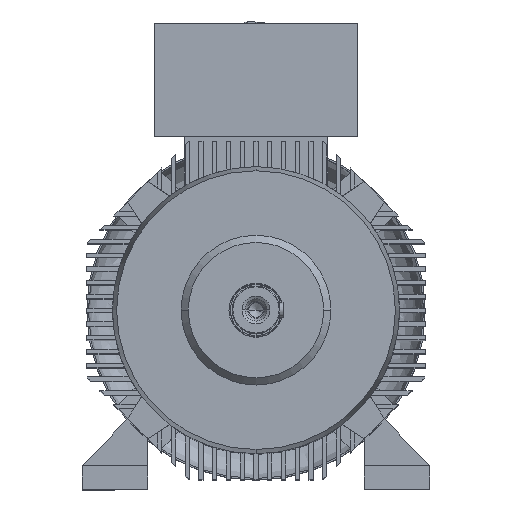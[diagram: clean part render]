
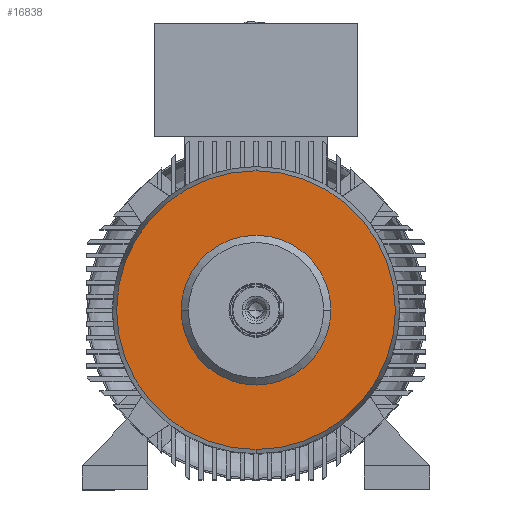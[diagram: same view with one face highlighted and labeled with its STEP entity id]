
A CAD part, top view. The second image highlights one B-rep face of the part: STEP entity #16838.
In plain terms, the highlighted planar face has unit normal (0, 0, 1).
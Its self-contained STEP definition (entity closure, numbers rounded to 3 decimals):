
#240 = CARTESIAN_POINT ( 'NONE',  ( 0., 0., 293.5 ) ) ;
#504 = CIRCLE ( 'NONE', #5552, 175.013 ) ;
#1027 = CIRCLE ( 'NONE', #10749, 94. ) ;
#1393 = VERTEX_POINT ( 'NONE', #9008 ) ;
#3254 = CIRCLE ( 'NONE', #24674, 94. ) ;
#5171 = CARTESIAN_POINT ( 'NONE',  ( 0., 0., 293.5 ) ) ;
#5314 = PLANE ( 'NONE',  #7231 ) ;
#5552 = AXIS2_PLACEMENT_3D ( 'NONE', #5171, #15356, #7384 ) ;
#6001 = ORIENTED_EDGE ( 'NONE', *, *, #16561, .T. ) ;
#6086 = CARTESIAN_POINT ( 'NONE',  ( -94., 0., 293.5 ) ) ;
#7231 = AXIS2_PLACEMENT_3D ( 'NONE', #23955, #7364, #21641 ) ;
#7364 = DIRECTION ( 'NONE',  ( 0., 0., -1. ) ) ;
#7384 = DIRECTION ( 'NONE',  ( 0., -1., 0. ) ) ;
#8930 = VERTEX_POINT ( 'NONE', #6086 ) ;
#9008 = CARTESIAN_POINT ( 'NONE',  ( 94., 0., 293.5 ) ) ;
#9928 = EDGE_CURVE ( 'NONE', #12777, #21825, #504, .T. ) ;
#10034 = DIRECTION ( 'NONE',  ( 1., 0., 0. ) ) ;
#10572 = EDGE_LOOP ( 'NONE', ( #12650, #6001 ) ) ;
#10749 = AXIS2_PLACEMENT_3D ( 'NONE', #15645, #18219, #10034 ) ;
#11328 = CIRCLE ( 'NONE', #13903, 175.013 ) ;
#11696 = EDGE_CURVE ( 'NONE', #1393, #8930, #1027, .T. ) ;
#12650 = ORIENTED_EDGE ( 'NONE', *, *, #9928, .T. ) ;
#12777 = VERTEX_POINT ( 'NONE', #18480 ) ;
#13903 = AXIS2_PLACEMENT_3D ( 'NONE', #240, #16558, #24850 ) ;
#14850 = DIRECTION ( 'NONE',  ( 0., 0., -1. ) ) ;
#14936 = CARTESIAN_POINT ( 'NONE',  ( 0., 0., 293.5 ) ) ;
#15356 = DIRECTION ( 'NONE',  ( 0., 0., 1. ) ) ;
#15645 = CARTESIAN_POINT ( 'NONE',  ( 0., 0., 293.5 ) ) ;
#15808 = CARTESIAN_POINT ( 'NONE',  ( 0., 175.013, 293.5 ) ) ;
#16558 = DIRECTION ( 'NONE',  ( 0., 0., 1. ) ) ;
#16561 = EDGE_CURVE ( 'NONE', #21825, #12777, #11328, .T. ) ;
#16838 = ADVANCED_FACE ( 'NONE', ( #26282, #20859 ), #5314, .F. ) ;
#17322 = EDGE_CURVE ( 'NONE', #8930, #1393, #3254, .T. ) ;
#17934 = ORIENTED_EDGE ( 'NONE', *, *, #11696, .T. ) ;
#18219 = DIRECTION ( 'NONE',  ( 0., 0., -1. ) ) ;
#18480 = CARTESIAN_POINT ( 'NONE',  ( 0., -175.013, 293.5 ) ) ;
#20447 = EDGE_LOOP ( 'NONE', ( #17934, #25772 ) ) ;
#20859 = FACE_OUTER_BOUND ( 'NONE', #10572, .T. ) ;
#21641 = DIRECTION ( 'NONE',  ( 1., 0., 0. ) ) ;
#21825 = VERTEX_POINT ( 'NONE', #15808 ) ;
#23955 = CARTESIAN_POINT ( 'NONE',  ( 0., 175.013, 293.5 ) ) ;
#24674 = AXIS2_PLACEMENT_3D ( 'NONE', #14936, #14850, #25084 ) ;
#24850 = DIRECTION ( 'NONE',  ( 0., -1., 0. ) ) ;
#25084 = DIRECTION ( 'NONE',  ( 1., 0., 0. ) ) ;
#25772 = ORIENTED_EDGE ( 'NONE', *, *, #17322, .T. ) ;
#26282 = FACE_BOUND ( 'NONE', #20447, .T. ) ;
